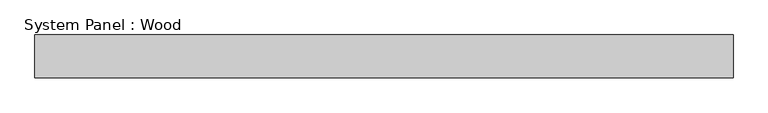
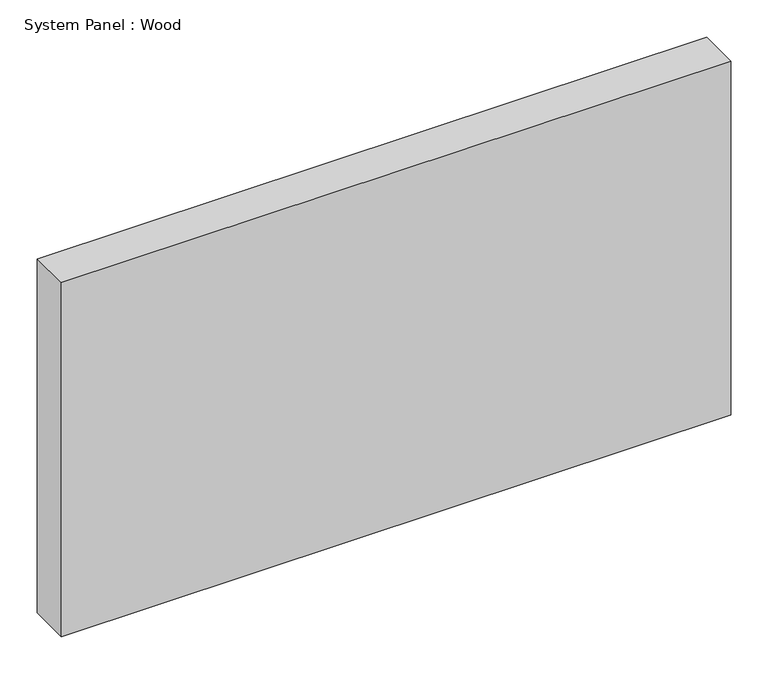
"""IFC4 building model written with IfcOpenShell, lengths in millimetres: plate geometry, System Panel : Wood."""

from ifc_helpers import new_model, si_unit, origin, origin_with_axes, place, context, project, spatial, polyline, outline, extrude, source, transform, mapped, element, save


def system_panel_wood_7a0a0ada(model_context):
    return source(origin(), model_context, "Body", "SweptSolid", [
        extrude(outline(polyline([(516.255, -44.45), (-516.255, -44.45), (-516.255, 19.05), (516.255, 19.05), (516.255, -44.45)])), origin_with_axes(), (0.0, 0.0, 1.0), 577.85),
    ])


if __name__ == "__main__":
    model = new_model("IFC4")
    model_context = context("Model", 3, world=origin())
    ifc_project = project(units=[si_unit("LENGTHUNIT", "METRE", prefix="MILLI")], contexts=[model_context])
    site = spatial("IfcSite", under=ifc_project)
    building = spatial("IfcBuilding", under=site)
    placement = place(None, origin())
    system_panel_wood_shape = system_panel_wood_7a0a0ada(model_context)
    element("IfcPlate", 1, ObjectType="System Panel : Wood", at=placement, inside=building, context=model_context, shape_type="MappedRepresentation", body=[
        mapped(system_panel_wood_shape, transform((0.0, 0.0, 0.0), x_axis=(1.0, 0.0, 0.0), y_axis=(0.0, 1.0, 0.0), z_axis=(0.0, 0.0, 1.0))),
    ])
    save(model, "model.ifc")
